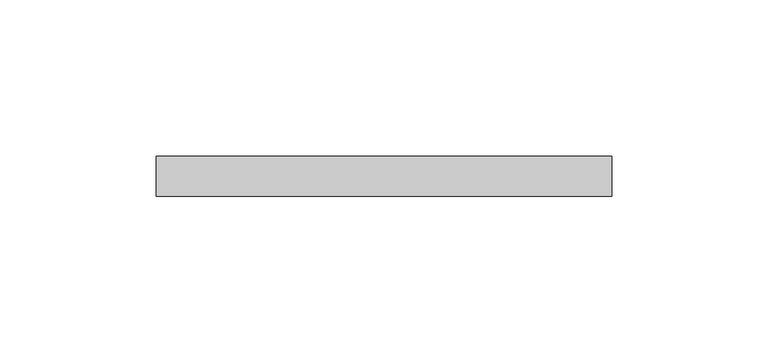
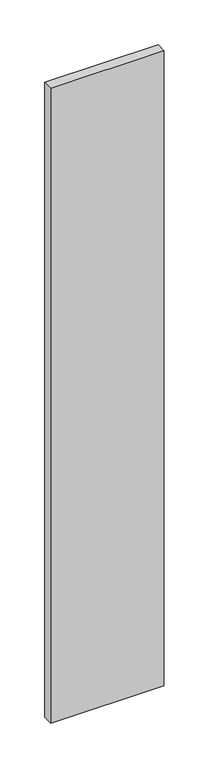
"""IFC4 building model written with IfcOpenShell, lengths in millimetres: proxy geometry, LIVERS_ICN - Glass Panel : LIVERS_ICN - Glass Panel."""

from ifc_helpers import new_model, si_unit, frame, origin, place, context, project, spatial, polyline, outline, extrude, source, transform, mapped, element, save


def building_element_proxy_9afc2005(model_context):
    return source(origin(), model_context, "Body", "SweptSolid", [
        extrude(outline(polyline([(645.3282151, 34.1309994), (499.6836203, 34.1309994), (499.6836203, 46.8311957), (645.3282151, 46.8311957), (645.3282151, 34.1309994)])), frame((0.0, 0.0, 114.3), z_axis=(0.0, 0.0, 1.0), x_axis=(1.0, 0.0, 0.0)), (0.0, 0.0, 1.0), 863.6),
    ])


if __name__ == "__main__":
    model = new_model("IFC4")
    model_context = context("Model", 3, world=origin())
    ifc_project = project(units=[si_unit("LENGTHUNIT", "METRE", prefix="MILLI")], contexts=[model_context])
    site = spatial("IfcSite", under=ifc_project)
    building = spatial("IfcBuilding", under=site)
    placement = place(None, origin())
    building_element_proxy_shape = building_element_proxy_9afc2005(model_context)
    element("IfcBuildingElementProxy", 1, Name="LIVERS_ICN - Glass Panel : LIVERS_ICN - Glass Panel", ObjectType="LIVERS_ICN - Glass Panel : LIVERS_ICN - Glass Panel", at=placement, inside=building, context=model_context, shape_type="MappedRepresentation", body=[
        mapped(building_element_proxy_shape, transform((0.0, 0.0, 0.0), x_axis=(1.0, 0.0, 0.0), y_axis=(0.0, 1.0, 0.0), z_axis=(0.0, 0.0, 1.0))),
    ])
    save(model, "model.ifc")
